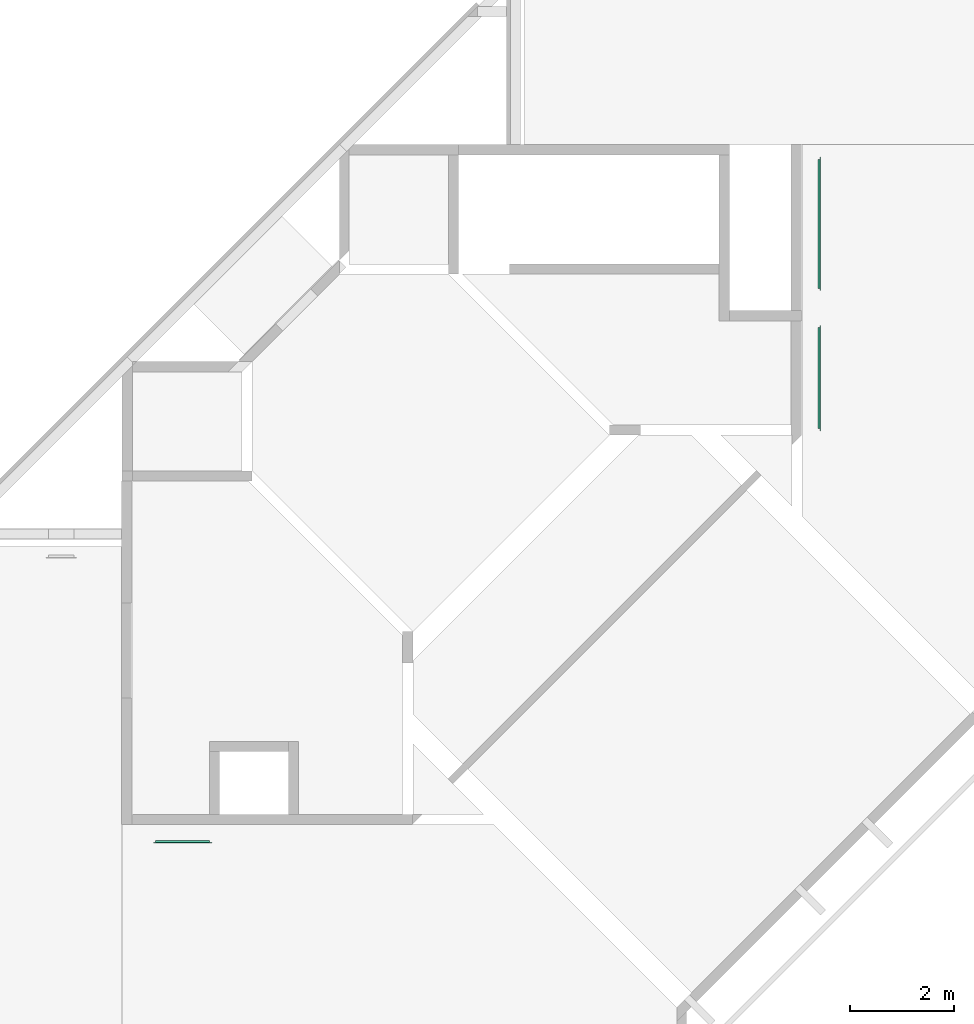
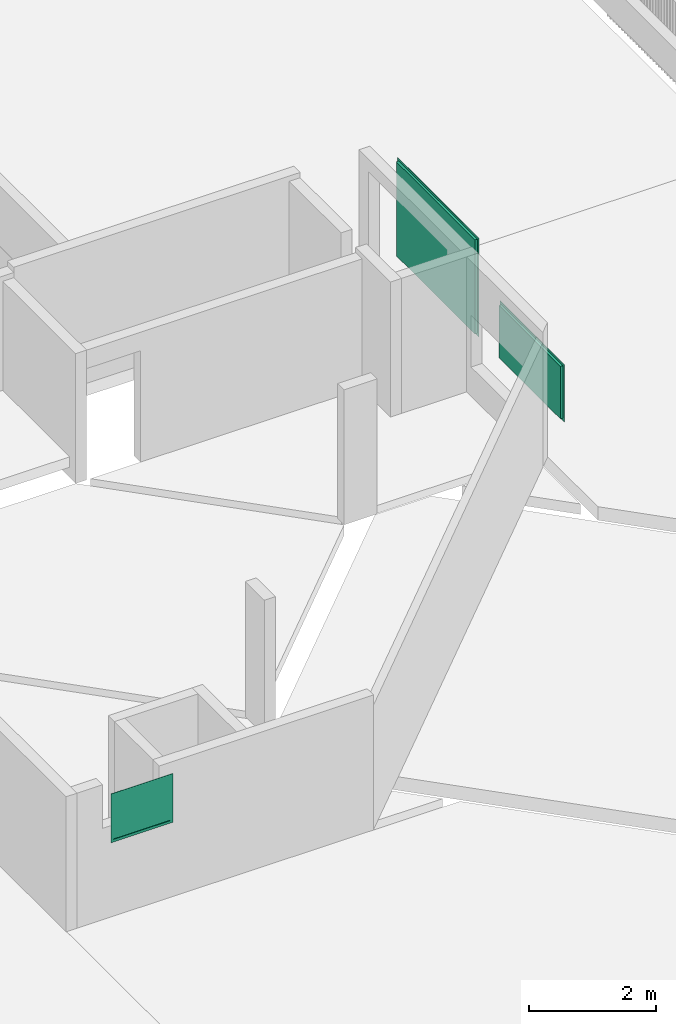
# One storey, part 36 of 37: 3 air terminals.
"""IFC4X3_ADD2 building model written with IfcOpenShell, lengths in millimetres."""

from ifc_helpers import new_model, si_unit, direction, frame, origin_with_axes, place, context, subcontext, project, spatial, polygons, source, transform, mapped, element, save


model = new_model("IFC4X3_ADD2")

# Units and contexts
model_context = context("Model", 3, precision=1e-05, world=origin_with_axes(), true_north=direction((0.0, 1.0)))
body_context = subcontext(model_context, "Body", "Model", "MODEL_VIEW")
ifc_project = project(units=[si_unit("LENGTHUNIT", "METRE", prefix="MILLI"), si_unit("AREAUNIT", "SQUARE_METRE"), si_unit("VOLUMEUNIT", "CUBIC_METRE"), si_unit("PLANEANGLEUNIT", "RADIAN"), si_unit("TIMEUNIT", "SECOND"), si_unit("MASSUNIT", "GRAM")], contexts=[model_context])

# Site, building, storey
site_placement = place(None, origin_with_axes())
site = spatial("IfcSite", under=ifc_project, at=site_placement, Name="Site", CompositionType="ELEMENT")
building_placement = place(site_placement, origin_with_axes())
building = spatial("IfcBuilding", under=site, at=building_placement, Name="IFC Building Story")
storey_placement = place(building_placement, frame((0.0, 0.0, 14400.0), z_axis=(0.0, 0.0, 1.0), x_axis=(1.0, 0.0, 0.0)))
storey = spatial("IfcBuildingStorey", under=building, at=storey_placement, Name="040", Elevation=14400.0)

# Air terminals
shared_shape_1 = source(origin_with_axes(), body_context, "Body", "Tessellation", [
    polygons([(2520.0, 50.0, 50.0), (50.0, 50.0000000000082, 50.0), (50.0, 50.0000000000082, 1850.0), (2520.0, 50.0, 1850.0), (2520.0, 10.0, 50.0), (2520.0, 10.0, 1850.0), (50.0, 10.0000000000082, 1850.0), (50.0, 10.0000000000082, 50.0)], [[[1, 2, 3, 4]], [[5, 6, 7, 8]], [[1, 4, 6, 5]], [[4, 3, 7, 6]], [[3, 2, 8, 7]], [[2, 1, 5, 8]]]),
    polygons([(2520.0, 50.0, 50.0), (2520.0, 0.0, 50.0), (2520.0, 0.0, 1850.0), (2520.0, 50.0, 1850.0), (2525.0, 5.0, 45.0), (2525.0, 50.0, 45.0), (2525.0, 50.0, 1855.0), (2525.0, 5.0, 1855.0), (2570.0, 0.0, 0.0), (2570.0, 5.0, 0.0), (2570.0, 5.0, 1900.0), (2570.0, 0.0, 1900.0), (50.0, 8.12150346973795e-12, 1850.0), (50.0, 50.0000000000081, 1850.0), (45.0, 50.0000000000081, 1855.0), (45.0, 5.00000000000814, 1855.0), (0.0, 5.00000000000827, 1900.0), (0.0, 8.25686186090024e-12, 1900.0), (50.0, 8.12150346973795e-12, 50.0), (50.0, 50.0000000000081, 50.0), (45.0, 50.0000000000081, 45.0), (45.0, 5.00000000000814, 45.0), (0.0, 5.00000000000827, 0.0), (0.0, 8.25686186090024e-12, 0.0)], [[[1, 2, 3, 4]], [[5, 6, 7, 8]], [[9, 10, 11, 12]], [[4, 3, 13, 14]], [[8, 7, 15, 16]], [[12, 11, 17, 18]], [[14, 13, 19, 20]], [[16, 15, 21, 22]], [[18, 17, 23, 24]], [[20, 19, 2, 1]], [[1, 4, 7]], [[1, 7, 6]], [[6, 21, 20]], [[6, 20, 1]], [[21, 15, 14]], [[21, 14, 20]], [[15, 7, 4]], [[15, 4, 14]], [[22, 21, 6, 5]], [[5, 8, 11]], [[5, 11, 10]], [[10, 23, 22]], [[10, 22, 5]], [[23, 17, 16]], [[23, 16, 22]], [[17, 11, 8]], [[17, 8, 16]], [[24, 23, 10, 9]], [[3, 2, 9]], [[3, 9, 12]], [[12, 18, 13]], [[12, 13, 3]], [[18, 24, 19]], [[18, 19, 13]], [[24, 9, 2]], [[24, 2, 19]]]),
])
air_terminal_1_placement = place(storey_placement, frame((-6650.0, 17285.0, 310.0), z_axis=(0.0, 0.0, 1.0), x_axis=(0.0, 1.0, 0.0)))
element("IfcAirTerminal", 1, at=air_terminal_1_placement, inside=storey, Name="BB_07.14.11#01_Buitenrooster_GMO:2470 x 1800 mm", ObjectType="BB_07.14.11#01_Buitenrooster_GMO:2470 x 1800 mm", PredefinedType="GRILLE", context=body_context, shape_type="MappedRepresentation", body=[
    mapped(shared_shape_1, transform((0.0, 0.0, 0.0))),
])
shared_shape_2 = source(origin_with_axes(), body_context, "Body", "Tessellation", [
    polygons([(1980.0, 50.0, 49.9999999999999), (50.0, 50.0000000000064, 49.9999999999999), (50.0, 50.0000000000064, 1050.0), (1980.0, 50.0, 1050.0), (1980.0, 10.0, 49.9999999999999), (1980.0, 10.0, 1050.0), (50.0, 10.0000000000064, 1050.0), (50.0, 10.0000000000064, 49.9999999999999)], [[[1, 2, 3, 4]], [[5, 6, 7, 8]], [[1, 4, 6, 5]], [[4, 3, 7, 6]], [[3, 2, 8, 7]], [[2, 1, 5, 8]]]),
    polygons([(1980.0, 50.0, 50.0), (1980.0, 0.0, 50.0), (1980.0, 0.0, 1050.0), (1980.0, 50.0, 1050.0), (1985.0, 5.0, 45.0), (1985.0, 50.0, 45.0), (1985.0, 50.0, 1055.0), (1985.0, 5.0, 1055.0), (2030.0, 0.0, 0.0), (2030.0, 5.0, 0.0), (2030.0, 5.0, 1100.0), (2030.0, 0.0, 1100.0), (50.0, 6.29416518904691e-12, 1050.0), (50.0, 50.0000000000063, 1050.0), (45.0, 50.0000000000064, 1055.0), (45.0, 5.00000000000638, 1055.0), (0.0, 5.00000000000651, 1100.0), (0.0, 6.49720277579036e-12, 1100.0), (50.0, 6.29416518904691e-12, 50.0), (50.0, 50.0000000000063, 50.0), (45.0, 50.0000000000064, 45.0), (45.0, 5.00000000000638, 45.0), (0.0, 5.00000000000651, 0.0), (0.0, 6.49720277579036e-12, 0.0)], [[[1, 2, 3, 4]], [[5, 6, 7, 8]], [[9, 10, 11, 12]], [[4, 3, 13, 14]], [[8, 7, 15, 16]], [[12, 11, 17, 18]], [[14, 13, 19, 20]], [[16, 15, 21, 22]], [[18, 17, 23, 24]], [[20, 19, 2, 1]], [[1, 4, 7]], [[1, 7, 6]], [[6, 21, 20]], [[6, 20, 1]], [[21, 15, 14]], [[21, 14, 20]], [[15, 7, 4]], [[15, 4, 14]], [[22, 21, 6, 5]], [[5, 8, 11]], [[5, 11, 10]], [[10, 23, 22]], [[10, 22, 5]], [[23, 17, 16]], [[23, 16, 22]], [[17, 11, 8]], [[17, 8, 16]], [[24, 23, 10, 9]], [[3, 2, 9]], [[3, 9, 12]], [[12, 18, 13]], [[12, 13, 3]], [[18, 24, 19]], [[18, 19, 13]], [[24, 9, 2]], [[24, 2, 19]]]),
])
air_terminal_2_placement = place(storey_placement, frame((-6650.00067351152, 14584.9996217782, 310.0), z_axis=(0.0, 0.0, 1.0), x_axis=(8.403493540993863e-06, 0.9999999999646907, 0.0)))
element("IfcAirTerminal", 2, at=air_terminal_2_placement, inside=storey, Name="BB_07.14.11#01_Buitenrooster_GMO:1930 x 1000 mm", ObjectType="BB_07.14.11#01_Buitenrooster_GMO:1930 x 1000 mm", PredefinedType="GRILLE", context=body_context, shape_type="MappedRepresentation", body=[
    mapped(shared_shape_2, transform((0.0, 0.0, 0.0))),
])
shared_shape_3 = source(origin_with_axes(), body_context, "Body", "Tessellation", [
    polygons([(1080.0, 50.0, 50.0), (50.0, 50.0000000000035, 50.0), (50.0, 50.0000000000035, 890.000000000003), (1080.0, 50.0, 890.000000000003), (1080.0, 10.0, 50.0), (1080.0, 10.0, 890.000000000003), (50.0, 10.0000000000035, 890.000000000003), (50.0, 10.0000000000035, 50.0)], [[[1, 2, 3, 4]], [[5, 6, 7, 8]], [[1, 4, 6, 5]], [[4, 3, 7, 6]], [[3, 2, 8, 7]], [[2, 1, 5, 8]]]),
    polygons([(1080.0, 50.0, 50.0), (1080.0, 0.0, 50.0), (1080.0, 0.0, 890.000000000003), (1080.0, 50.0, 890.000000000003), (1085.0, 5.0, 45.0), (1085.0, 50.0, 45.0), (1085.0, 50.0, 895.000000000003), (1085.0, 5.0, 895.000000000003), (1130.0, 0.0, 0.0), (1130.0, 5.0, 0.0), (1130.0, 5.0, 940.000000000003), (1130.0, 0.0, 940.000000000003), (50.0, 3.38395977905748e-12, 890.000000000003), (50.0, 50.0000000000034, 890.000000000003), (45.0, 50.0000000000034, 895.000000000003), (45.0, 5.0000000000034, 895.000000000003), (0.0, 5.00000000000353, 940.000000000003), (0.0, 3.51931817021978e-12, 940.000000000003), (50.0, 3.38395977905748e-12, 50.0), (50.0, 50.0000000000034, 50.0), (45.0, 50.0000000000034, 45.0), (45.0, 5.0000000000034, 45.0), (0.0, 5.00000000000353, 0.0), (0.0, 3.51931817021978e-12, 0.0)], [[[1, 2, 3, 4]], [[5, 6, 7, 8]], [[9, 10, 11, 12]], [[4, 3, 13, 14]], [[8, 7, 15, 16]], [[12, 11, 17, 18]], [[14, 13, 19, 20]], [[16, 15, 21, 22]], [[18, 17, 23, 24]], [[20, 19, 2, 1]], [[1, 4, 7]], [[1, 7, 6]], [[6, 21, 20]], [[6, 20, 1]], [[21, 15, 14]], [[21, 14, 20]], [[15, 7, 4]], [[15, 4, 14]], [[22, 21, 6, 5]], [[5, 8, 11]], [[5, 11, 10]], [[10, 23, 22]], [[10, 22, 5]], [[23, 17, 16]], [[23, 16, 22]], [[17, 11, 8]], [[17, 8, 16]], [[24, 23, 10, 9]], [[3, 2, 9]], [[3, 9, 12]], [[12, 18, 13]], [[12, 13, 3]], [[18, 24, 19]], [[18, 19, 13]], [[24, 9, 2]], [[24, 2, 19]]]),
])
air_terminal_3_placement = place(storey_placement, frame((-19494.9870716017, 6650.0, 1510.0), z_axis=(0.0, 0.0, 1.0), x_axis=(1.0, 0.0, 0.0)))
element("IfcAirTerminal", 3, at=air_terminal_3_placement, inside=storey, Name="BB_07.14.11#01_Buitenrooster_GMO:1030 x 840 mm", ObjectType="BB_07.14.11#01_Buitenrooster_GMO:1030 x 840 mm", PredefinedType="GRILLE", context=body_context, shape_type="MappedRepresentation", body=[
    mapped(shared_shape_3, transform((0.0, 0.0, 0.0))),
])

save(model, "model.ifc")
